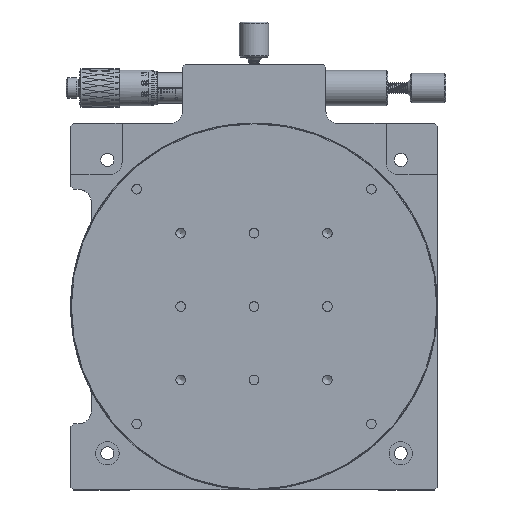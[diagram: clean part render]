
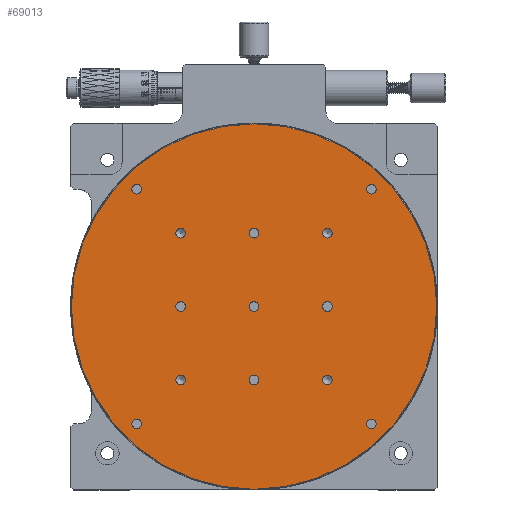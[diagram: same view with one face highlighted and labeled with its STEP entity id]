
A CAD part, top view. The second image highlights one B-rep face of the part: STEP entity #69013.
In plain terms, the highlighted planar face has unit normal (0, 0, 1).
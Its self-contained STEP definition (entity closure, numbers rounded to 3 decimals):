
#1 = VERTEX_POINT ( 'NONE', #38603 ) ;
#112 = FACE_BOUND ( 'NONE', #106108, .T. ) ;
#262 = CIRCLE ( 'NONE', #71843, 1.65 ) ;
#765 = EDGE_CURVE ( 'NONE', #78287, #78287, #72177, .T. ) ;
#1106 = CARTESIAN_POINT ( 'NONE',  ( -1.814, -50.49, 13. ) ) ;
#1429 = CIRCLE ( 'NONE', #55122, 62.3 ) ;
#1464 = EDGE_CURVE ( 'NONE', #42138, #42138, #1804, .T. ) ;
#1804 = CIRCLE ( 'NONE', #27673, 1.65 ) ;
#4454 = VERTEX_POINT ( 'NONE', #52421 ) ;
#5776 = CARTESIAN_POINT ( 'NONE',  ( 13.186, 14.51, 13. ) ) ;
#6702 = DIRECTION ( 'NONE',  ( 1., 0., 0. ) ) ;
#7000 = DIRECTION ( 'NONE',  ( 0., 0., 1. ) ) ;
#7593 = FACE_BOUND ( 'NONE', #123056, .T. ) ;
#8834 = FACE_BOUND ( 'NONE', #115486, .T. ) ;
#11347 = CARTESIAN_POINT ( 'NONE',  ( -3.464, 29.51, 13. ) ) ;
#12376 = ORIENTED_EDGE ( 'NONE', *, *, #73740, .F. ) ;
#13643 = EDGE_LOOP ( 'NONE', ( #37490 ) ) ;
#14413 = VERTEX_POINT ( 'NONE', #41844 ) ;
#16219 = ORIENTED_EDGE ( 'NONE', *, *, #73169, .F. ) ;
#17160 = CARTESIAN_POINT ( 'NONE',  ( 63.186, 14.51, 13. ) ) ;
#17606 = DIRECTION ( 'NONE',  ( -1., 0., 0. ) ) ;
#18798 = DIRECTION ( 'NONE',  ( 0., 0., -1. ) ) ;
#18977 = DIRECTION ( 'NONE',  ( -1., 0., 0. ) ) ;
#19845 = AXIS2_PLACEMENT_3D ( 'NONE', #5776, #7000, #35639 ) ;
#20398 = CARTESIAN_POINT ( 'NONE',  ( 38.186, -35.49, 13. ) ) ;
#21398 = AXIS2_PLACEMENT_3D ( 'NONE', #1106, #41563, #60256 ) ;
#21595 = EDGE_LOOP ( 'NONE', ( #44186 ) ) ;
#22328 = CARTESIAN_POINT ( 'NONE',  ( -1.814, 29.51, 13. ) ) ;
#23021 = CARTESIAN_POINT ( 'NONE',  ( 78.186, 29.51, 13. ) ) ;
#25384 = ORIENTED_EDGE ( 'NONE', *, *, #25544, .F. ) ;
#25544 = EDGE_CURVE ( 'NONE', #103085, #103085, #262, .T. ) ;
#26051 = CARTESIAN_POINT ( 'NONE',  ( 36.536, -10.49, 13. ) ) ;
#26688 = DIRECTION ( 'NONE',  ( 0., 0., 1. ) ) ;
#27673 = AXIS2_PLACEMENT_3D ( 'NONE', #20398, #76440, #115034 ) ;
#28332 = AXIS2_PLACEMENT_3D ( 'NONE', #42092, #62598, #79460 ) ;
#30151 = CARTESIAN_POINT ( 'NONE',  ( 63.186, -10.49, 13. ) ) ;
#31128 = EDGE_LOOP ( 'NONE', ( #104824 ) ) ;
#32351 = DIRECTION ( 'NONE',  ( 0., 0., 1. ) ) ;
#33528 = CIRCLE ( 'NONE', #97124, 1.65 ) ;
#34466 = EDGE_LOOP ( 'NONE', ( #16219 ) ) ;
#35341 = CARTESIAN_POINT ( 'NONE',  ( 38.186, -10.49, 13. ) ) ;
#35639 = DIRECTION ( 'NONE',  ( -1., 0., 0. ) ) ;
#36023 = ORIENTED_EDGE ( 'NONE', *, *, #1464, .F. ) ;
#36243 = FACE_BOUND ( 'NONE', #122574, .T. ) ;
#37469 = FACE_BOUND ( 'NONE', #63369, .T. ) ;
#37490 = ORIENTED_EDGE ( 'NONE', *, *, #95686, .F. ) ;
#38054 = EDGE_CURVE ( 'NONE', #79832, #79832, #98578, .T. ) ;
#38099 = PLANE ( 'NONE',  #70486 ) ;
#38603 = CARTESIAN_POINT ( 'NONE',  ( 61.536, 14.51, 13. ) ) ;
#38977 = ORIENTED_EDGE ( 'NONE', *, *, #43238, .F. ) ;
#41563 = DIRECTION ( 'NONE',  ( 0., 0., 1. ) ) ;
#41844 = CARTESIAN_POINT ( 'NONE',  ( 76.536, -50.49, 13. ) ) ;
#42092 = CARTESIAN_POINT ( 'NONE',  ( 38.186, 14.51, 13. ) ) ;
#42138 = VERTEX_POINT ( 'NONE', #106915 ) ;
#42991 = ORIENTED_EDGE ( 'NONE', *, *, #46571, .F. ) ;
#43095 = EDGE_LOOP ( 'NONE', ( #38977 ) ) ;
#43238 = EDGE_CURVE ( 'NONE', #14413, #14413, #114639, .T. ) ;
#44186 = ORIENTED_EDGE ( 'NONE', *, *, #116810, .F. ) ;
#44600 = DIRECTION ( 'NONE',  ( 0., 0., 1. ) ) ;
#45981 = VERTEX_POINT ( 'NONE', #72771 ) ;
#46571 = EDGE_CURVE ( 'NONE', #4454, #4454, #59175, .T. ) ;
#46852 = FACE_BOUND ( 'NONE', #123104, .T. ) ;
#46923 = AXIS2_PLACEMENT_3D ( 'NONE', #113853, #26688, #83993 ) ;
#47016 = AXIS2_PLACEMENT_3D ( 'NONE', #56235, #64333, #17606 ) ;
#48083 = FACE_BOUND ( 'NONE', #43095, .T. ) ;
#52421 = CARTESIAN_POINT ( 'NONE',  ( -3.464, -50.49, 13. ) ) ;
#52831 = ORIENTED_EDGE ( 'NONE', *, *, #94857, .F. ) ;
#52917 = ORIENTED_EDGE ( 'NONE', *, *, #765, .F. ) ;
#54699 = CARTESIAN_POINT ( 'NONE',  ( 100.486, -10.49, 13. ) ) ;
#55122 = AXIS2_PLACEMENT_3D ( 'NONE', #35341, #83308, #6702 ) ;
#55645 = EDGE_LOOP ( 'NONE', ( #102869 ) ) ;
#56186 = FACE_BOUND ( 'NONE', #55645, .T. ) ;
#56235 = CARTESIAN_POINT ( 'NONE',  ( 78.186, -50.49, 13. ) ) ;
#56664 = AXIS2_PLACEMENT_3D ( 'NONE', #122667, #99875, #84696 ) ;
#59175 = CIRCLE ( 'NONE', #21398, 1.65 ) ;
#60256 = DIRECTION ( 'NONE',  ( -1., 0., 0. ) ) ;
#60320 = DIRECTION ( 'NONE',  ( 0., 0., 1. ) ) ;
#60855 = EDGE_CURVE ( 'NONE', #72920, #72920, #101870, .T. ) ;
#62598 = DIRECTION ( 'NONE',  ( 0., 0., 1. ) ) ;
#63369 = EDGE_LOOP ( 'NONE', ( #42991 ) ) ;
#64333 = DIRECTION ( 'NONE',  ( 0., 0., 1. ) ) ;
#64861 = CIRCLE ( 'NONE', #84786, 1.65 ) ;
#64904 = FACE_BOUND ( 'NONE', #89449, .T. ) ;
#65621 = CIRCLE ( 'NONE', #19845, 1.65 ) ;
#65884 = VERTEX_POINT ( 'NONE', #85796 ) ;
#67117 = DIRECTION ( 'NONE',  ( 0., 0., 1. ) ) ;
#68438 = DIRECTION ( 'NONE',  ( -1., 0., 0. ) ) ;
#68675 = AXIS2_PLACEMENT_3D ( 'NONE', #113648, #104315, #18977 ) ;
#69013 = ADVANCED_FACE ( 'NONE', ( #84831, #64904, #74875, #56186, #7593, #122799, #94203, #8834, #112, #46852, #48083, #121564, #36243, #37469 ), #38099, .F. ) ;
#70486 = AXIS2_PLACEMENT_3D ( 'NONE', #75478, #18798, #86062 ) ;
#71843 = AXIS2_PLACEMENT_3D ( 'NONE', #22328, #60320, #68438 ) ;
#72177 = CIRCLE ( 'NONE', #28332, 1.65 ) ;
#72771 = CARTESIAN_POINT ( 'NONE',  ( 11.536, -35.49, 13. ) ) ;
#72920 = VERTEX_POINT ( 'NONE', #102183 ) ;
#73169 = EDGE_CURVE ( 'NONE', #1, #1, #64861, .T. ) ;
#73740 = EDGE_CURVE ( 'NONE', #105250, #105250, #104628, .T. ) ;
#74875 = FACE_BOUND ( 'NONE', #79240, .T. ) ;
#75478 = CARTESIAN_POINT ( 'NONE',  ( 38.186, -10.49, 13. ) ) ;
#76440 = DIRECTION ( 'NONE',  ( 0., 0., 1. ) ) ;
#77838 = CARTESIAN_POINT ( 'NONE',  ( 11.536, -10.49, 13. ) ) ;
#78287 = VERTEX_POINT ( 'NONE', #116257 ) ;
#79240 = EDGE_LOOP ( 'NONE', ( #52917 ) ) ;
#79460 = DIRECTION ( 'NONE',  ( -1., 0., 0. ) ) ;
#79832 = VERTEX_POINT ( 'NONE', #108466 ) ;
#80577 = CIRCLE ( 'NONE', #68675, 1.65 ) ;
#82124 = VERTEX_POINT ( 'NONE', #93945 ) ;
#82657 = AXIS2_PLACEMENT_3D ( 'NONE', #30151, #116702, #117311 ) ;
#82746 = ORIENTED_EDGE ( 'NONE', *, *, #103820, .F. ) ;
#83308 = DIRECTION ( 'NONE',  ( 0., 0., 1. ) ) ;
#83993 = DIRECTION ( 'NONE',  ( -1., 0., 0. ) ) ;
#84696 = DIRECTION ( 'NONE',  ( -1., 0., 0. ) ) ;
#84786 = AXIS2_PLACEMENT_3D ( 'NONE', #17160, #44600, #93800 ) ;
#84831 = FACE_BOUND ( 'NONE', #13643, .T. ) ;
#85185 = DIRECTION ( 'NONE',  ( -1., 0., 0. ) ) ;
#85796 = CARTESIAN_POINT ( 'NONE',  ( 11.536, 14.51, 13. ) ) ;
#86062 = DIRECTION ( 'NONE',  ( 1., 0., 0. ) ) ;
#89449 = EDGE_LOOP ( 'NONE', ( #12376 ) ) ;
#93800 = DIRECTION ( 'NONE',  ( -1., 0., 0. ) ) ;
#93945 = CARTESIAN_POINT ( 'NONE',  ( 61.536, -35.49, 13. ) ) ;
#94203 = FACE_BOUND ( 'NONE', #34466, .T. ) ;
#94463 = CIRCLE ( 'NONE', #56664, 1.65 ) ;
#94857 = EDGE_CURVE ( 'NONE', #82124, #82124, #94463, .T. ) ;
#95686 = EDGE_CURVE ( 'NONE', #111361, #111361, #80577, .T. ) ;
#97124 = AXIS2_PLACEMENT_3D ( 'NONE', #103274, #67117, #85185 ) ;
#98390 = DIRECTION ( 'NONE',  ( -1., 0., 0. ) ) ;
#98578 = CIRCLE ( 'NONE', #82657, 1.65 ) ;
#99875 = DIRECTION ( 'NONE',  ( 0., 0., 1. ) ) ;
#100820 = VERTEX_POINT ( 'NONE', #54699 ) ;
#100857 = EDGE_CURVE ( 'NONE', #100820, #100820, #1429, .T. ) ;
#101870 = CIRCLE ( 'NONE', #117801, 1.65 ) ;
#102183 = CARTESIAN_POINT ( 'NONE',  ( 76.536, 29.51, 13. ) ) ;
#102869 = ORIENTED_EDGE ( 'NONE', *, *, #38054, .F. ) ;
#103085 = VERTEX_POINT ( 'NONE', #11347 ) ;
#103274 = CARTESIAN_POINT ( 'NONE',  ( 13.186, -35.49, 13. ) ) ;
#103820 = EDGE_CURVE ( 'NONE', #45981, #45981, #33528, .T. ) ;
#104315 = DIRECTION ( 'NONE',  ( 0., 0., 1. ) ) ;
#104628 = CIRCLE ( 'NONE', #46923, 1.65 ) ;
#104824 = ORIENTED_EDGE ( 'NONE', *, *, #100857, .T. ) ;
#105250 = VERTEX_POINT ( 'NONE', #77838 ) ;
#106108 = EDGE_LOOP ( 'NONE', ( #36023 ) ) ;
#106915 = CARTESIAN_POINT ( 'NONE',  ( 36.536, -35.49, 13. ) ) ;
#108466 = CARTESIAN_POINT ( 'NONE',  ( 61.536, -10.49, 13. ) ) ;
#111361 = VERTEX_POINT ( 'NONE', #26051 ) ;
#113529 = ORIENTED_EDGE ( 'NONE', *, *, #60855, .F. ) ;
#113648 = CARTESIAN_POINT ( 'NONE',  ( 38.186, -10.49, 13. ) ) ;
#113853 = CARTESIAN_POINT ( 'NONE',  ( 13.186, -10.49, 13. ) ) ;
#114639 = CIRCLE ( 'NONE', #47016, 1.65 ) ;
#115034 = DIRECTION ( 'NONE',  ( -1., 0., 0. ) ) ;
#115486 = EDGE_LOOP ( 'NONE', ( #52831 ) ) ;
#116257 = CARTESIAN_POINT ( 'NONE',  ( 36.536, 14.51, 13. ) ) ;
#116702 = DIRECTION ( 'NONE',  ( 0., 0., 1. ) ) ;
#116810 = EDGE_CURVE ( 'NONE', #65884, #65884, #65621, .T. ) ;
#117311 = DIRECTION ( 'NONE',  ( -1., 0., 0. ) ) ;
#117801 = AXIS2_PLACEMENT_3D ( 'NONE', #23021, #32351, #98390 ) ;
#121564 = FACE_OUTER_BOUND ( 'NONE', #31128, .T. ) ;
#122574 = EDGE_LOOP ( 'NONE', ( #25384 ) ) ;
#122667 = CARTESIAN_POINT ( 'NONE',  ( 63.186, -35.49, 13. ) ) ;
#122799 = FACE_BOUND ( 'NONE', #21595, .T. ) ;
#123056 = EDGE_LOOP ( 'NONE', ( #82746 ) ) ;
#123104 = EDGE_LOOP ( 'NONE', ( #113529 ) ) ;
